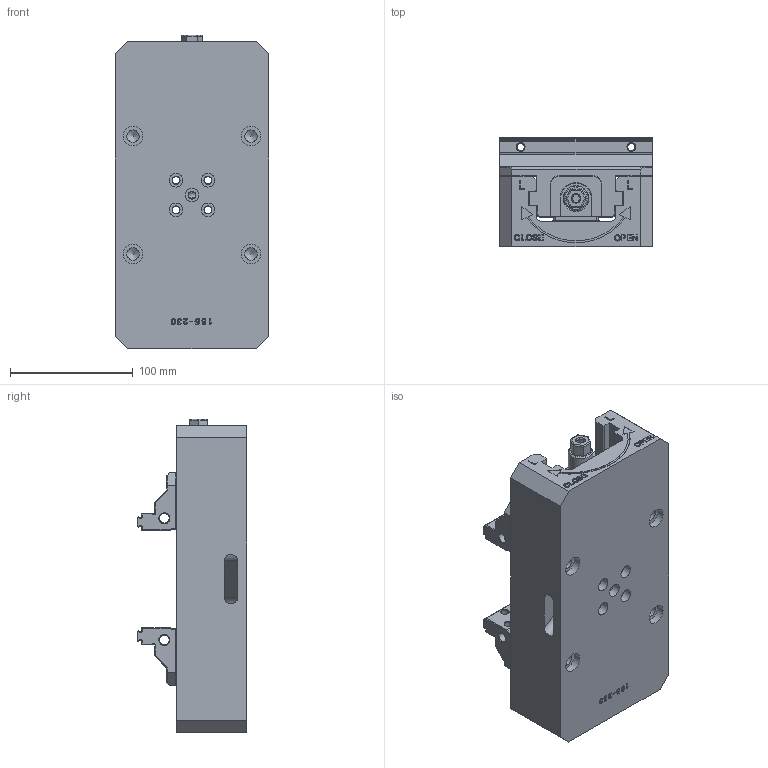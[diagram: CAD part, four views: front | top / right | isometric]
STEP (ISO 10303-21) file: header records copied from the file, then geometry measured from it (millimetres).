
FILE_DESCRIPTION(/* description */ (''),/* implementation_level */ '2;1');
FILE_NAME(/* name */ '',/* time_stamp */ '2023-07-31T13:29:44+08:00',/* author */ (''),/* organization */ (''),/* preprocessor_version */ 'ST-DEVELOPER v11',/* originating_system */ 'SIEMENS PLM Software NX 7.0',/* authorisation */ '');
FILE_SCHEMA (('CONFIG_CONTROL_DESIGN'));
Products named in the file (1): Admi8458jpxb
Bounding box: 125 x 89 x 255 mm (x, y, z)
Volume: 1509431 mm3; surface area: 225631.9 mm2
Topology: 5 solids, 5 shells, 1603 faces, 4394 edges, 2846 vertices
Faces by surface type: plane 974, cylinder 470, cone 82, extrusion 62, bspline 12, torus 3
Full cylindrical faces by diameter (mm): 6 x19, 6.5 x5, 8 x4, 10 x4, 11 x5, 16.005 x4, 17 x2, 18 x2, 20 x2, 24 x2, 24.5 x1
Entity records: 57089 total; most frequent: CARTESIAN_POINT 17639, ORIENTED_EDGE 8494, DIRECTION 7520, EDGE_CURVE 4247, VERTEX_POINT 2805, VECTOR 2782, LINE 2720, AXIS2_PLACEMENT_3D 2369
